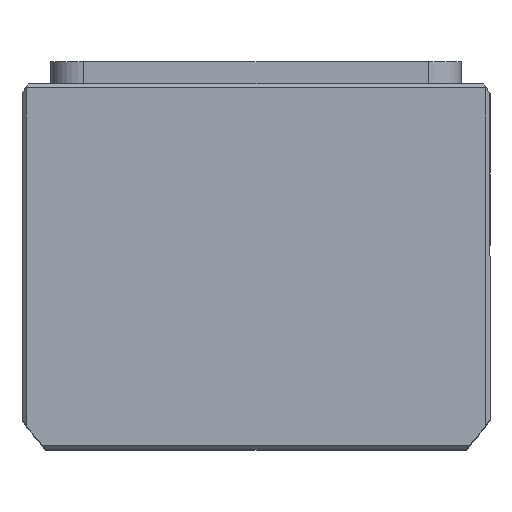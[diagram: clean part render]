
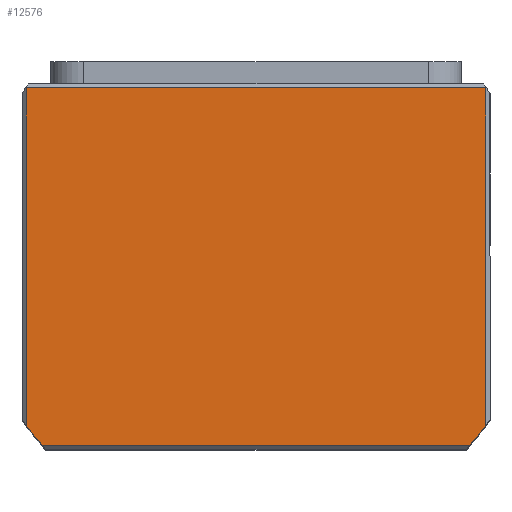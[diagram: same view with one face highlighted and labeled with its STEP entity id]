
A CAD part, top view. The second image highlights one B-rep face of the part: STEP entity #12576.
In plain terms, the highlighted planar face has unit normal (0, 0, 1) as drawn and (0, 0, -1) by its records, which use the part's own axes.
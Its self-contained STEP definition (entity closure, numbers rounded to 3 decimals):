
#13 = CARTESIAN_POINT ( 'NONE',  ( 0., 0., 0. ) ) ;
#357 = VERTEX_POINT ( 'NONE', #400 ) ;
#400 = CARTESIAN_POINT ( 'NONE',  ( -56., 38.661, 0. ) ) ;
#606 = VERTEX_POINT ( 'NONE', #4464 ) ;
#1275 = DIRECTION ( 'NONE',  ( 1., 0., 0. ) ) ;
#1330 = CARTESIAN_POINT ( 'NONE',  ( -52.098, 43.5, 0. ) ) ;
#1418 = AXIS2_PLACEMENT_3D ( 'NONE', #13, #11882, #3010 ) ;
#1951 = VECTOR ( 'NONE', #14452, 1000. ) ;
#2139 = CIRCLE ( 'NONE', #4406, 69.5 ) ;
#2324 = EDGE_CURVE ( 'NONE', #16846, #357, #4763, .T. ) ;
#2484 = VERTEX_POINT ( 'NONE', #14676 ) ;
#3010 = DIRECTION ( 'NONE',  ( 1., 0., 0. ) ) ;
#3022 = EDGE_CURVE ( 'NONE', #606, #13011, #17203, .T. ) ;
#3524 = CARTESIAN_POINT ( 'NONE',  ( -56., -43.5, 0. ) ) ;
#4103 = DIRECTION ( 'NONE',  ( 0., 0., 1. ) ) ;
#4406 = AXIS2_PLACEMENT_3D ( 'NONE', #12970, #4103, #14457 ) ;
#4464 = CARTESIAN_POINT ( 'NONE',  ( 56., 38.661, 0. ) ) ;
#4665 = ORIENTED_EDGE ( 'NONE', *, *, #2324, .F. ) ;
#4763 = CIRCLE ( 'NONE', #9914, 69.5 ) ;
#6147 = FACE_OUTER_BOUND ( 'NONE', #10852, .T. ) ;
#7400 = LINE ( 'NONE', #17446, #11325 ) ;
#8897 = EDGE_CURVE ( 'NONE', #16846, #2484, #11812, .T. ) ;
#9000 = CARTESIAN_POINT ( 'NONE',  ( -56., 0., 0. ) ) ;
#9040 = ORIENTED_EDGE ( 'NONE', *, *, #8897, .T. ) ;
#9914 = AXIS2_PLACEMENT_3D ( 'NONE', #12235, #12165, #12151 ) ;
#10075 = DIRECTION ( 'NONE',  ( -1., 0., 0. ) ) ;
#10594 = EDGE_CURVE ( 'NONE', #13011, #18973, #7400, .T. ) ;
#10653 = ORIENTED_EDGE ( 'NONE', *, *, #10594, .T. ) ;
#10852 = EDGE_LOOP ( 'NONE', ( #16674, #13695, #10653, #15532, #4665, #9040 ) ) ;
#11325 = VECTOR ( 'NONE', #10075, 1000. ) ;
#11584 = CARTESIAN_POINT ( 'NONE',  ( 0., 43.5, 0. ) ) ;
#11812 = LINE ( 'NONE', #11584, #19167 ) ;
#11882 = DIRECTION ( 'NONE',  ( 0., 0., 1. ) ) ;
#12151 = DIRECTION ( 'NONE',  ( 1., 0., 0. ) ) ;
#12165 = DIRECTION ( 'NONE',  ( 0., 0., 1. ) ) ;
#12235 = CARTESIAN_POINT ( 'NONE',  ( 0., -2.5, 0. ) ) ;
#12576 = ADVANCED_FACE ( 'NONE', ( #6147 ), #16282, .F. ) ;
#12862 = CARTESIAN_POINT ( 'NONE',  ( 56., -43.5, 0. ) ) ;
#12970 = CARTESIAN_POINT ( 'NONE',  ( 0., -2.5, 0. ) ) ;
#13011 = VERTEX_POINT ( 'NONE', #12862 ) ;
#13695 = ORIENTED_EDGE ( 'NONE', *, *, #3022, .T. ) ;
#14206 = VECTOR ( 'NONE', #17828, 1000. ) ;
#14452 = DIRECTION ( 'NONE',  ( 0., -1., 0. ) ) ;
#14457 = DIRECTION ( 'NONE',  ( 1., 0., 0. ) ) ;
#14676 = CARTESIAN_POINT ( 'NONE',  ( 52.098, 43.5, 0. ) ) ;
#15532 = ORIENTED_EDGE ( 'NONE', *, *, #17152, .T. ) ;
#15666 = EDGE_CURVE ( 'NONE', #606, #2484, #2139, .T. ) ;
#16200 = CARTESIAN_POINT ( 'NONE',  ( 56., 0., 0. ) ) ;
#16282 = PLANE ( 'NONE',  #1418 ) ;
#16674 = ORIENTED_EDGE ( 'NONE', *, *, #15666, .F. ) ;
#16846 = VERTEX_POINT ( 'NONE', #1330 ) ;
#17152 = EDGE_CURVE ( 'NONE', #18973, #357, #18109, .T. ) ;
#17203 = LINE ( 'NONE', #16200, #1951 ) ;
#17446 = CARTESIAN_POINT ( 'NONE',  ( 0., -43.5, 0. ) ) ;
#17828 = DIRECTION ( 'NONE',  ( 0., 1., 0. ) ) ;
#18109 = LINE ( 'NONE', #9000, #14206 ) ;
#18973 = VERTEX_POINT ( 'NONE', #3524 ) ;
#19167 = VECTOR ( 'NONE', #1275, 1000. ) ;
